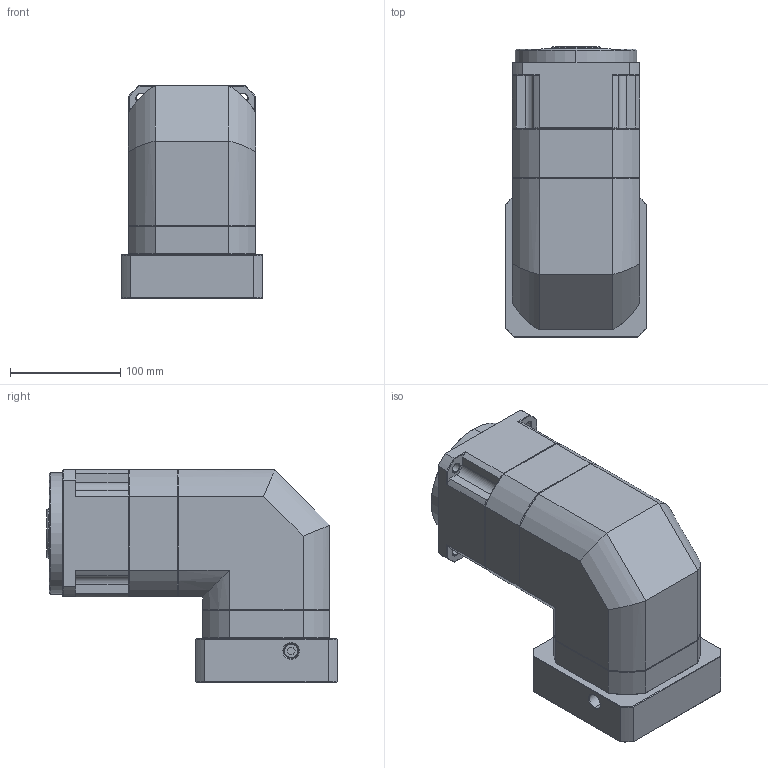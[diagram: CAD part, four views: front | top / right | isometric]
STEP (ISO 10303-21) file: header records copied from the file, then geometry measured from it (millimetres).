
FILE_DESCRIPTION (( 'STEP AP214' ), '1' );
FILE_NAME ('ZPBR115-K32-L2-P1-24-110-145-M8.step', '2024-06-29T08:14:58', ( 'Windows 蚚誧' ), ( 'Organization' ), 'SwSTEP 2.0', 'SolidWorks 2016', '' );
FILE_SCHEMA (( 'AUTOMOTIVE_DESIGN' ));
Length unit declared in the file: millimetre
Products named in the file (1): ZPBR115-K32-L2-P1-24-110-145-M8
Bounding box: 128 x 262.5 x 192.2 mm (x, y, z)
Surface area: 206716.8 mm2 (no closed solid volume)
Topology: 0 solids, 28 shells, 1821 faces, 4886 edges, 3128 vertices
Faces by surface type: plane 935, bspline 374, cone 280, cylinder 232
Entity records: 87541 total; most frequent: CARTESIAN_POINT 38024, ORIENTED_EDGE 9770, DIRECTION 7517, EDGE_CURVE 4886, LINE 3181, VECTOR 3181, VERTEX_POINT 3128, AXIS2_PLACEMENT_3D 2168
